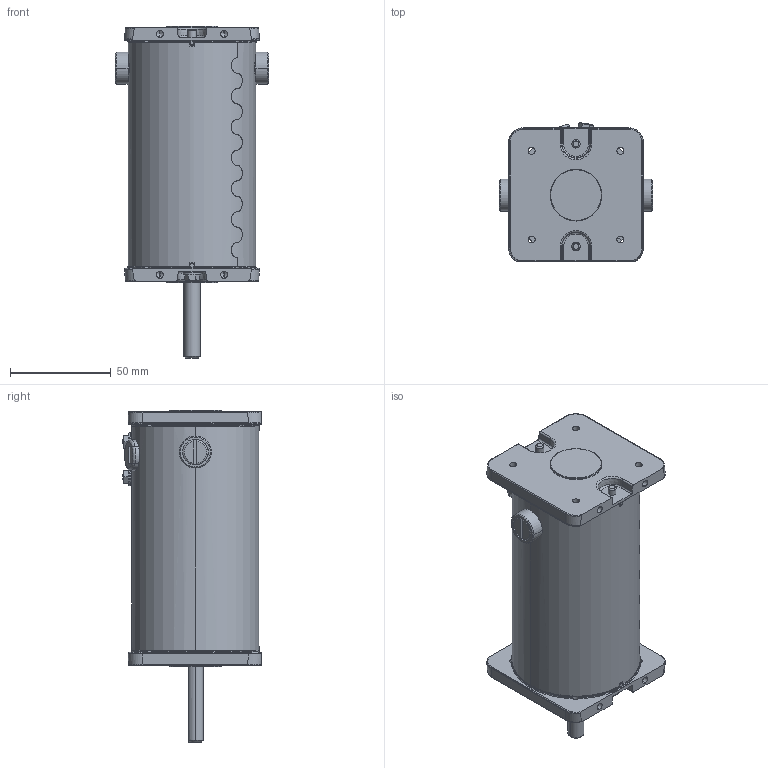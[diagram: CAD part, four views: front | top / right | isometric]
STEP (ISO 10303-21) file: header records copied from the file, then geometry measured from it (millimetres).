
FILE_DESCRIPTION (( 'STEP AP203' ), '1' );
FILE_NAME ('M1030888-M1110003_Rev02.STEP', '2017-08-24T07:15:47', ( '' ), ( '' ), 'SwSTEP 2.0', 'SolidWorks 2015', '' );
FILE_SCHEMA (( 'CONFIG_CONTROL_DESIGN' ));
Products named in the file (1): M1030888-M1110003_Rev02
Bounding box: 75.95 x 68.42 x 164.4 mm (x, y, z)
Volume: 118067.7 mm3; surface area: 88521.9 mm2
Topology: 19 solids, 28 shells, 2199 faces, 5526 edges, 3351 vertices
Faces by surface type: bspline 677, plane 642, cylinder 509, torus 179, cone 112, sphere 80
Entity records: 84088 total; most frequent: CARTESIAN_POINT 36781, ORIENTED_EDGE 10908, DIRECTION 8358, EDGE_CURVE 5454, VERTEX_POINT 3351, AXIS2_PLACEMENT_3D 3102, EDGE_LOOP 2327, FACE_OUTER_BOUND 2199
